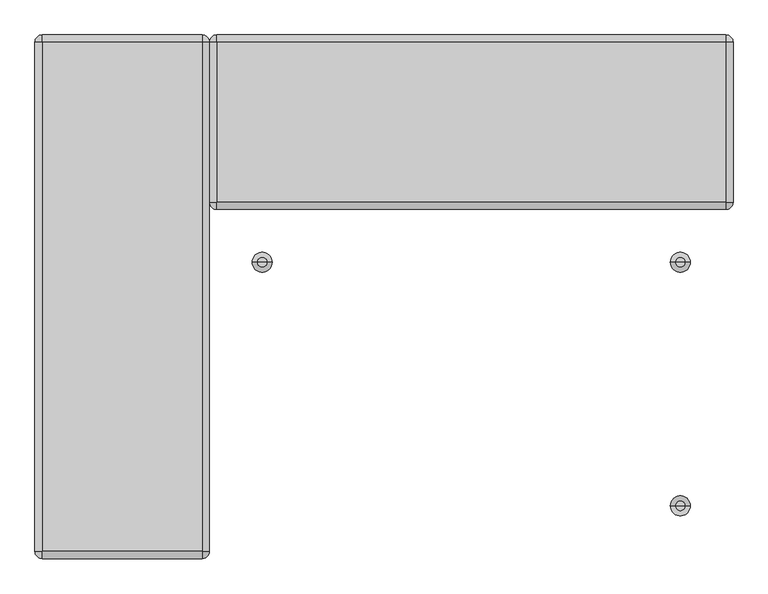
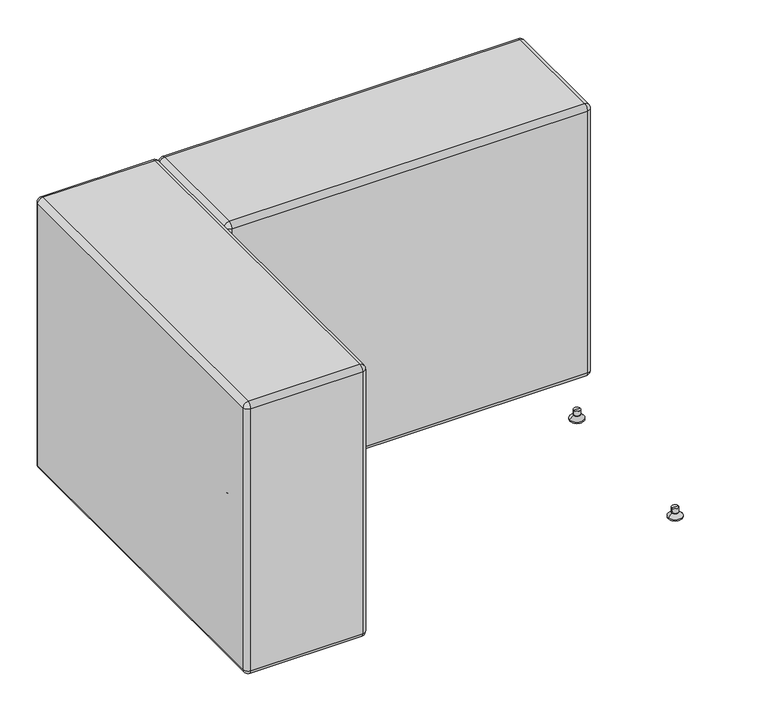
"""IFC4 building model written with IfcOpenShell, lengths in millimetres: furniture geometry, KFI Studios - Conversa : 24”x36” Seat - Right Corner."""

from ifc_helpers import new_model, si_unit, point, frame, origin, place, context, project, spatial, polyline, circle_curve, ellipse_curve, trimmed, source, transform, mapped, element, save
from ifc_brep_helpers import plane_surface, cylinder_surface, revolved_surface, advanced_brep


def furniture_e837e3ce(model_context):
    return source(origin(), model_context, "Body", "AdvancedBrep", [
        advanced_brep(
        [(-661.6604105, 517.525, 25.4), (-669.925, 517.525, 25.4), (-678.1895895, 517.525, 25.4), (-661.6604105, 517.525, 14.2843611), (-678.1895895, 517.525, 14.2843611), (-663.2623646, 517.525, 14.2843611), (-676.5876354, 517.525, 14.2843611), (-663.2623646, 517.525, 12.7064551), (-676.5876354, 517.525, 12.7064551), (-661.6609329, 517.525, 12.7064551), (-678.1890671, 517.525, 12.7064551), (-652.4758785, 517.525, 3.1950529), (-687.3741215, 517.525, 3.1950529), (-652.4758785, 517.525, 0.0), (-687.3741215, 517.525, 0.0), (-669.925, 517.525, 0.0)],
        [
            (0, 1),
            (1, 2),
            (2, 0, circle_curve(frame((-669.925, 517.525, 25.4), z_axis=(0.0, 0.0, 1.0), x_axis=(-1.0, 0.0, 0.0)), 8.2645895)),
            (0, 2, circle_curve(frame((-669.925, 517.525, 25.4), z_axis=(0.0, 0.0, 1.0), x_axis=(-1.0, 0.0, 0.0)), 8.2645895)),
            (3, 0),
            (2, 4),
            (4, 3, circle_curve(frame((-669.925, 517.525, 14.2843611), z_axis=(0.0, 0.0, 1.0), x_axis=(-1.0, 0.0, 0.0)), 8.2645895)),
            (3, 4, circle_curve(frame((-669.925, 517.525, 14.2843611), z_axis=(0.0, 0.0, 1.0), x_axis=(-1.0, 0.0, 0.0)), 8.2645895)),
            (5, 3),
            (4, 6),
            (6, 5, circle_curve(frame((-669.925, 517.525, 14.2843611), z_axis=(0.0, 0.0, 1.0), x_axis=(-1.0, 0.0, 0.0)), 6.6626354)),
            (5, 6, circle_curve(frame((-669.925, 517.525, 14.2843611), z_axis=(0.0, 0.0, 1.0), x_axis=(-1.0, 0.0, 0.0)), 6.6626354)),
            (7, 5),
            (6, 8),
            (8, 7, circle_curve(frame((-669.925, 517.525, 12.7064551), z_axis=(0.0, 0.0, 1.0), x_axis=(-1.0, 0.0, 0.0)), 6.6626354)),
            (7, 8, circle_curve(frame((-669.925, 517.525, 12.7064551), z_axis=(0.0, 0.0, 1.0), x_axis=(-1.0, 0.0, 0.0)), 6.6626354)),
            (9, 7),
            (8, 10),
            (10, 9, circle_curve(frame((-669.925, 517.525, 12.7064551), z_axis=(0.0, 0.0, 1.0), x_axis=(-1.0, 0.0, 0.0)), 8.2640671)),
            (9, 10, circle_curve(frame((-669.925, 517.525, 12.7064551), z_axis=(0.0, 0.0, 1.0), x_axis=(-1.0, 0.0, 0.0)), 8.2640671)),
            (11, 9),
            (10, 12),
            (12, 11, circle_curve(frame((-669.925, 517.525, 3.1950529), z_axis=(0.0, 0.0, 1.0), x_axis=(-1.0, 0.0, 0.0)), 17.4491215)),
            (11, 12, circle_curve(frame((-669.925, 517.525, 3.1950529), z_axis=(0.0, 0.0, 1.0), x_axis=(-1.0, 0.0, 0.0)), 17.4491215)),
            (13, 11),
            (12, 14),
            (14, 13, circle_curve(frame((-669.925, 517.525, 0.0), z_axis=(0.0, 0.0, 1.0), x_axis=(-1.0, 0.0, 0.0)), 17.4491215)),
            (13, 14, circle_curve(frame((-669.925, 517.525, 0.0), z_axis=(0.0, 0.0, 1.0), x_axis=(-1.0, 0.0, 0.0)), 17.4491215)),
            (15, 13),
            (14, 15),
        ],
        [
            plane_surface(frame((-669.925, 517.525, 25.4), z_axis=(0.0, 0.0, 1.0), x_axis=(-1.0, 0.0, 0.0))),
            cylinder_surface(frame((-669.925, 517.525, 33.820929), z_axis=(0.0, 0.0, -1.0), x_axis=(-1.0, 0.0, 0.0)), 8.2645895),
            plane_surface(frame((-669.925, 517.525, 14.2843611), z_axis=(0.0, 0.0, -1.0), x_axis=(-1.0, 0.0, 0.0))),
            cylinder_surface(frame((-669.925, 517.525, 33.820929), z_axis=(0.0, 0.0, -1.0), x_axis=(-1.0, 0.0, 0.0)), 6.6626354),
            plane_surface(frame((-669.925, 517.525, 12.7064551), z_axis=(0.0, 0.0, 1.0), x_axis=(-1.0, 0.0, 0.0))),
            revolved_surface(polyline([(-678.1890671, 517.525, 12.7064551), (-687.3741215, 517.525, 3.1950529)]), (-669.925, 517.525, 33.820929), (0.0, 0.0, -1.0)),
            cylinder_surface(frame((-669.925, 517.525, 33.820929), z_axis=(0.0, 0.0, -1.0), x_axis=(-1.0, 0.0, 0.0)), 17.4491215),
            plane_surface(frame((-669.925, 517.525, 0.0), z_axis=(0.0, 0.0, -1.0), x_axis=(-1.0, 0.0, 0.0))),
        ],
        [
            (0, [[1, 2, 3]]),
            (0, [[-2, -1, 4]]),
            (1, [[5, -3, 6, 7]]),
            (1, [[-6, -4, -5, 8]]),
            (2, [[9, -7, 10, 11]]),
            (2, [[-10, -8, -9, 12]]),
            (3, [[13, -11, 14, 15]]),
            (3, [[-14, -12, -13, 16]]),
            (4, [[17, -15, 18, 19]]),
            (4, [[-18, -16, -17, 20]]),
            (5, [[21, -19, 22, 23]]),
            (5, [[-22, -20, -21, 24]]),
            (6, [[25, -23, 26, 27]]),
            (6, [[-26, -24, -25, 28]]),
            (7, [[29, -27, 30]]),
            (7, [[-30, -28, -29]]),
        ],
    ),
        advanced_brep(
        [(-661.6604105, -212.725, 25.4), (-678.1895895, -212.725, 25.4), (-669.925, -212.725, 25.4), (-661.6604105, -212.725, 14.2843611), (-678.1895895, -212.725, 14.2843611), (-663.2623646, -212.725, 14.2843611), (-676.5876354, -212.725, 14.2843611), (-663.2623646, -212.725, 12.7064551), (-676.5876354, -212.725, 12.7064551), (-661.6609329, -212.725, 12.7064551), (-678.1890671, -212.725, 12.7064551), (-652.4758785, -212.725, 3.1950529), (-687.3741215, -212.725, 3.1950529), (-652.4758785, -212.725, 0.0), (-687.3741215, -212.725, 0.0), (-669.925, -212.725, 0.0)],
        [
            (0, 1, circle_curve(frame((-669.925, -212.725, 25.4), z_axis=(0.0, 0.0, 1.0), x_axis=(-1.0, 0.0, 0.0)), 8.2645895)),
            (1, 2),
            (2, 0),
            (1, 0, circle_curve(frame((-669.925, -212.725, 25.4), z_axis=(0.0, 0.0, 1.0), x_axis=(-1.0, 0.0, 0.0)), 8.2645895)),
            (3, 4, circle_curve(frame((-669.925, -212.725, 14.2843611), z_axis=(0.0, 0.0, 1.0), x_axis=(-1.0, 0.0, 0.0)), 8.2645895)),
            (4, 1),
            (0, 3),
            (4, 3, circle_curve(frame((-669.925, -212.725, 14.2843611), z_axis=(0.0, 0.0, 1.0), x_axis=(-1.0, 0.0, 0.0)), 8.2645895)),
            (5, 6, circle_curve(frame((-669.925, -212.725, 14.2843611), z_axis=(0.0, 0.0, 1.0), x_axis=(-1.0, 0.0, 0.0)), 6.6626354)),
            (6, 4),
            (3, 5),
            (6, 5, circle_curve(frame((-669.925, -212.725, 14.2843611), z_axis=(0.0, 0.0, 1.0), x_axis=(-1.0, 0.0, 0.0)), 6.6626354)),
            (7, 8, circle_curve(frame((-669.925, -212.725, 12.7064551), z_axis=(0.0, 0.0, 1.0), x_axis=(-1.0, 0.0, 0.0)), 6.6626354)),
            (8, 6),
            (5, 7),
            (8, 7, circle_curve(frame((-669.925, -212.725, 12.7064551), z_axis=(0.0, 0.0, 1.0), x_axis=(-1.0, 0.0, 0.0)), 6.6626354)),
            (9, 10, circle_curve(frame((-669.925, -212.725, 12.7064551), z_axis=(0.0, 0.0, 1.0), x_axis=(-1.0, 0.0, 0.0)), 8.2640671)),
            (10, 8),
            (7, 9),
            (10, 9, circle_curve(frame((-669.925, -212.725, 12.7064551), z_axis=(0.0, 0.0, 1.0), x_axis=(-1.0, 0.0, 0.0)), 8.2640671)),
            (11, 12, circle_curve(frame((-669.925, -212.725, 3.1950529), z_axis=(0.0, 0.0, 1.0), x_axis=(-1.0, 0.0, 0.0)), 17.4491215)),
            (12, 10),
            (9, 11),
            (12, 11, circle_curve(frame((-669.925, -212.725, 3.1950529), z_axis=(0.0, 0.0, 1.0), x_axis=(-1.0, 0.0, 0.0)), 17.4491215)),
            (13, 14, circle_curve(frame((-669.925, -212.725, 0.0), z_axis=(0.0, 0.0, 1.0), x_axis=(-1.0, 0.0, 0.0)), 17.4491215)),
            (14, 12),
            (11, 13),
            (14, 13, circle_curve(frame((-669.925, -212.725, 0.0), z_axis=(0.0, 0.0, 1.0), x_axis=(-1.0, 0.0, 0.0)), 17.4491215)),
            (15, 14),
            (13, 15),
        ],
        [
            plane_surface(frame((-669.925, -212.725, 25.4), z_axis=(0.0, 0.0, 1.0), x_axis=(-1.0, 0.0, 0.0))),
            cylinder_surface(frame((-669.925, -212.725, 33.820929), z_axis=(0.0, 0.0, -1.0), x_axis=(-1.0, 0.0, 0.0)), 8.2645895),
            plane_surface(frame((-669.925, -212.725, 14.2843611), z_axis=(0.0, 0.0, -1.0), x_axis=(-1.0, 0.0, 0.0))),
            cylinder_surface(frame((-669.925, -212.725, 33.820929), z_axis=(0.0, 0.0, -1.0), x_axis=(-1.0, 0.0, 0.0)), 6.6626354),
            plane_surface(frame((-669.925, -212.725, 12.7064551), z_axis=(0.0, 0.0, 1.0), x_axis=(-1.0, 0.0, 0.0))),
            revolved_surface(polyline([(-678.1890671, -212.725, 12.7064551), (-687.3741215, -212.725, 3.1950529)]), (-669.925, -212.725, 33.820929), (0.0, 0.0, -1.0)),
            cylinder_surface(frame((-669.925, -212.725, 33.820929), z_axis=(0.0, 0.0, -1.0), x_axis=(-1.0, 0.0, 0.0)), 17.4491215),
            plane_surface(frame((-669.925, -212.725, 0.0), z_axis=(0.0, 0.0, -1.0), x_axis=(-1.0, 0.0, 0.0))),
        ],
        [
            (0, [[1, 2, 3]]),
            (0, [[4, -3, -2]]),
            (1, [[5, 6, -1, 7]]),
            (1, [[8, -7, -4, -6]]),
            (2, [[9, 10, -5, 11]]),
            (2, [[12, -11, -8, -10]]),
            (3, [[13, 14, -9, 15]]),
            (3, [[16, -15, -12, -14]]),
            (4, [[17, 18, -13, 19]]),
            (4, [[20, -19, -16, -18]]),
            (5, [[21, 22, -17, 23]]),
            (5, [[24, -23, -20, -22]]),
            (6, [[25, 26, -21, 27]]),
            (6, [[28, -27, -24, -26]]),
            (7, [[29, -25, 30]]),
            (7, [[-30, -28, -29]]),
        ],
    ),
        advanced_brep(
        [(-762.0, 596.9, 730.25), (-762.0, -292.1, 730.25), (-749.3, -292.1, 742.95), (-749.3, 596.9, 742.95), (-762.0, 596.9, 38.1), (-762.0, -292.1, 38.1), (-749.3, 596.9, 25.4), (-749.3, -292.1, 25.4), (-749.3, -304.8, 730.25), (-469.9, -304.8, 730.25), (-469.9, -292.1, 742.95), (-749.3, -304.8, 38.1), (-469.9, -304.8, 38.1), (-469.9, -292.1, 25.4), (-469.9, 596.9, 742.95), (-469.9, 596.9, 25.4), (-469.9, 609.6, 730.25), (-749.3, 609.6, 730.25), (-469.9, 609.6, 38.1), (-749.3, 609.6, 38.1), (-457.2, -292.1, 730.25), (-457.2, 596.9, 730.25), (-457.2, -292.1, 38.1), (-457.2, 596.9, 38.1)],
        [
            (0, 1),
            (1, 2, circle_curve(frame((-749.3, -292.1, 730.25), z_axis=(0.0, 1.0, 0.0), x_axis=(-1.0, 0.0, 0.0)), 12.7)),
            (2, 3),
            (3, 0, circle_curve(frame((-749.3, 596.9, 730.25), z_axis=(0.0, -1.0, 0.0), x_axis=(-1.0, 0.0, 0.0)), 12.7)),
            (0, 4),
            (4, 5),
            (5, 1),
            (4, 6, circle_curve(frame((-749.3, 596.9, 38.1), z_axis=(0.0, -1.0, 0.0), x_axis=(-1.0, 0.0, 0.0)), 12.7)),
            (6, 7),
            (7, 5, circle_curve(frame((-749.3, -292.1, 38.1), z_axis=(0.0, 1.0, 0.0), x_axis=(-1.0, 0.0, 0.0)), 12.7)),
            (8, 9),
            (9, 10, circle_curve(frame((-469.9, -292.1, 730.25), z_axis=(-1.0, 0.0, 0.0), x_axis=(0.0, 1.0, 0.0)), 12.7)),
            (10, 2),
            (2, 8, circle_curve(frame((-749.3, -292.1, 730.25), z_axis=(1.0, 0.0, 0.0), x_axis=(0.0, 1.0, 0.0)), 12.7)),
            (8, 11),
            (11, 12),
            (12, 9),
            (11, 7, circle_curve(frame((-749.3, -292.1, 38.1), z_axis=(1.0, 0.0, 0.0), x_axis=(0.0, 1.0, 0.0)), 12.7)),
            (7, 13),
            (13, 12, circle_curve(frame((-469.9, -292.1, 38.1), z_axis=(-1.0, 0.0, 0.0), x_axis=(0.0, 1.0, 0.0)), 12.7)),
            (10, 14),
            (14, 3),
            (6, 15),
            (15, 13),
            (16, 17),
            (17, 3, circle_curve(frame((-749.3, 596.9, 730.25), z_axis=(1.0, 0.0, 0.0), x_axis=(0.0, 1.0, 0.0)), 12.7)),
            (14, 16, circle_curve(frame((-469.9, 596.9, 730.25), z_axis=(-1.0, 0.0, 0.0), x_axis=(0.0, 1.0, 0.0)), 12.7)),
            (16, 18),
            (18, 19),
            (19, 17),
            (18, 15, circle_curve(frame((-469.9, 596.9, 38.1), z_axis=(-1.0, 0.0, 0.0), x_axis=(0.0, 1.0, 0.0)), 12.7)),
            (6, 19, circle_curve(frame((-749.3, 596.9, 38.1), z_axis=(1.0, 0.0, 0.0), x_axis=(0.0, 1.0, 0.0)), 12.7)),
            (20, 21),
            (21, 14, circle_curve(frame((-469.9, 596.9, 730.25), z_axis=(0.0, -1.0, 0.0), x_axis=(-1.0, 0.0, 0.0)), 12.7)),
            (10, 20, circle_curve(frame((-469.9, -292.1, 730.25), z_axis=(0.0, 1.0, 0.0), x_axis=(-1.0, 0.0, 0.0)), 12.7)),
            (20, 22),
            (22, 23),
            (23, 21),
            (22, 13, circle_curve(frame((-469.9, -292.1, 38.1), z_axis=(0.0, 1.0, 0.0), x_axis=(-1.0, 0.0, 0.0)), 12.7)),
            (15, 23, circle_curve(frame((-469.9, 596.9, 38.1), z_axis=(0.0, -1.0, 0.0), x_axis=(-1.0, 0.0, 0.0)), 12.7)),
            (19, 4, circle_curve(frame((-749.3, 596.9, 38.1), z_axis=(0.0, 0.0, 1.0), x_axis=(-1.0, 0.0, 0.0)), 12.7)),
            (0, 17, circle_curve(frame((-749.3, 596.9, 730.25), z_axis=(0.0, 0.0, -1.0), x_axis=(-1.0, 0.0, 0.0)), 12.7)),
            (8, 1, circle_curve(frame((-749.3, -292.1, 730.25), z_axis=(0.0, 0.0, -1.0), x_axis=(-1.0, 0.0, 0.0)), 12.7)),
            (5, 11, circle_curve(frame((-749.3, -292.1, 38.1), z_axis=(0.0, 0.0, 1.0), x_axis=(-1.0, 0.0, 0.0)), 12.7)),
            (12, 22, circle_curve(frame((-469.9, -292.1, 38.1), z_axis=(0.0, 0.0, 1.0), x_axis=(1.0, 0.0, 0.0)), 12.7)),
            (20, 9, circle_curve(frame((-469.9, -292.1, 730.25), z_axis=(0.0, 0.0, -1.0), x_axis=(1.0, 0.0, 0.0)), 12.7)),
            (16, 21, circle_curve(frame((-469.9, 596.9, 730.25), z_axis=(0.0, 0.0, -1.0), x_axis=(1.0, 0.0, 0.0)), 12.7)),
            (23, 18, circle_curve(frame((-469.9, 596.9, 38.1), z_axis=(0.0, 0.0, 1.0), x_axis=(1.0, 0.0, 0.0)), 12.7)),
        ],
        [
            cylinder_surface(frame((-749.3, -292.1, 730.25), z_axis=(0.0, -1.0, 0.0), x_axis=(-1.0, 0.0, 0.0)), 12.7),
            plane_surface(frame((-762.0, -292.1, 730.25), z_axis=(-1.0, 0.0, 0.0), x_axis=(0.0, 1.0, 0.0))),
            cylinder_surface(frame((-749.3, -292.1, 38.1), z_axis=(0.0, -1.0, 0.0), x_axis=(-1.0, 0.0, 0.0)), 12.7),
            cylinder_surface(frame((-749.3, -292.1, 730.25), z_axis=(-1.0, 0.0, 0.0), x_axis=(0.0, 1.0, 0.0)), 12.7),
            plane_surface(frame((-749.3, -304.8, 38.1), z_axis=(0.0, -1.0, 0.0), x_axis=(1.0, 0.0, 0.0))),
            cylinder_surface(frame((-749.3, -292.1, 38.1), z_axis=(-1.0, 0.0, 0.0), x_axis=(0.0, 1.0, 0.0)), 12.7),
            plane_surface(frame((-749.3, 596.9, 742.95), z_axis=(0.0, 0.0, 1.0), x_axis=(-1.0, 0.0, 0.0))),
            plane_surface(frame((-749.3, 596.9, 25.4), z_axis=(0.0, 0.0, -1.0), x_axis=(1.0, 0.0, 0.0))),
            cylinder_surface(frame((-749.3, 596.9, 730.25), z_axis=(-1.0, 0.0, 0.0), x_axis=(0.0, 1.0, 0.0)), 12.7),
            plane_surface(frame((-749.3, 609.6, 730.25), z_axis=(0.0, 1.0, 0.0), x_axis=(1.0, 0.0, 0.0))),
            cylinder_surface(frame((-749.3, 596.9, 38.1), z_axis=(-1.0, 0.0, 0.0), x_axis=(0.0, 1.0, 0.0)), 12.7),
            cylinder_surface(frame((-469.9, -292.1, 730.25), z_axis=(0.0, -1.0, 0.0), x_axis=(-1.0, 0.0, 0.0)), 12.7),
            plane_surface(frame((-457.2, -292.1, 38.1), z_axis=(1.0, 0.0, 0.0), x_axis=(0.0, 1.0, 0.0))),
            cylinder_surface(frame((-469.9, -292.1, 38.1), z_axis=(0.0, -1.0, 0.0), x_axis=(-1.0, 0.0, 0.0)), 12.7),
            cylinder_surface(frame((-749.3, 596.9, 742.95), z_axis=(0.0, 0.0, 1.0), x_axis=(-1.0, 0.0, 0.0)), 12.7),
            revolved_surface(trimmed(ellipse_curve(frame((-749.3, 596.9, 38.1), z_axis=(0.0, 1.0, 0.0), x_axis=(0.0, 0.0, 1.0)), 12.7, 12.7), [point((-749.3, 596.9, 25.4))], [point((-762.0, 596.9, 38.1))], True, "CARTESIAN"), (-749.3, 596.9, 742.95), (0.0, 0.0, 1.0)),
            revolved_surface(trimmed(ellipse_curve(frame((-749.3, 596.9, 730.25), z_axis=(0.0, 1.0, 0.0), x_axis=(0.0, 0.0, 1.0)), 12.7, 12.7), [point((-762.0, 596.9, 730.25))], [point((-749.3, 596.9, 742.95))], True, "CARTESIAN"), (-749.3, 596.9, 742.95), (0.0, 0.0, 1.0)),
            cylinder_surface(frame((-749.3, -292.1, 592.6689642), z_axis=(0.0, 0.0, -1.0), x_axis=(-1.0, 0.0, 0.0)), 12.7),
            revolved_surface(trimmed(ellipse_curve(frame((-749.3, -292.1, 730.25), z_axis=(0.0, -1.0, 0.0), x_axis=(1.0, 0.0, 0.0)), 12.7, 12.7), [point((-749.3, -292.1, 742.95))], [point((-762.0, -292.1, 730.25))], True, "CARTESIAN"), (-749.3, -292.1, 592.6689642), (0.0, 0.0, -1.0)),
            revolved_surface(trimmed(ellipse_curve(frame((-749.3, -292.1, 38.1), z_axis=(0.0, -1.0, 0.0), x_axis=(1.0, 0.0, 0.0)), 12.7, 12.7), [point((-762.0, -292.1, 38.1))], [point((-749.3, -292.1, 25.4))], True, "CARTESIAN"), (-749.3, -292.1, 592.6689642), (0.0, 0.0, -1.0)),
            cylinder_surface(frame((-469.9, -292.1, 742.95), z_axis=(0.0, 0.0, 1.0), x_axis=(1.0, 0.0, 0.0)), 12.7),
            revolved_surface(trimmed(ellipse_curve(frame((-469.9, -292.1, 38.1), z_axis=(0.0, -1.0, 0.0), x_axis=(1.0, 0.0, 0.0)), 12.7, 12.7), [point((-469.9, -292.1, 25.4))], [point((-457.2, -292.1, 38.1))], True, "CARTESIAN"), (-469.9, -292.1, 742.95), (0.0, 0.0, 1.0)),
            revolved_surface(trimmed(ellipse_curve(frame((-469.9, -292.1, 730.25), z_axis=(0.0, -1.0, 0.0), x_axis=(1.0, 0.0, 0.0)), 12.7, 12.7), [point((-457.2, -292.1, 730.25))], [point((-469.9, -292.1, 742.95))], True, "CARTESIAN"), (-469.9, -292.1, 742.95), (0.0, 0.0, 1.0)),
            cylinder_surface(frame((-469.9, 596.9, 592.6689642), z_axis=(0.0, 0.0, -1.0), x_axis=(1.0, 0.0, 0.0)), 12.7),
            revolved_surface(trimmed(ellipse_curve(frame((-469.9, 596.9, 730.25), z_axis=(0.0, 1.0, 0.0), x_axis=(0.0, 0.0, 1.0)), 12.7, 12.7), [point((-469.9, 596.9, 742.95))], [point((-457.2, 596.9, 730.25))], True, "CARTESIAN"), (-469.9, 596.9, 592.6689642), (0.0, 0.0, -1.0)),
            revolved_surface(trimmed(ellipse_curve(frame((-469.9, 596.9, 38.1), z_axis=(0.0, 1.0, 0.0), x_axis=(0.0, 0.0, 1.0)), 12.7, 12.7), [point((-457.2, 596.9, 38.1))], [point((-469.9, 596.9, 25.4))], True, "CARTESIAN"), (-469.9, 596.9, 592.6689642), (0.0, 0.0, -1.0)),
        ],
        [
            (0, [[1, 2, 3, 4]]),
            (1, [[-1, 5, 6, 7]]),
            (2, [[-6, 8, 9, 10]]),
            (3, [[11, 12, 13, 14]]),
            (4, [[-11, 15, 16, 17]]),
            (5, [[-16, 18, 19, 20]]),
            (6, [[-3, -13, 21, 22]]),
            (7, [[-9, 23, 24, -19]]),
            (8, [[25, 26, -22, 27]]),
            (9, [[-25, 28, 29, 30]]),
            (10, [[-29, 31, -23, 32]]),
            (11, [[33, 34, -21, 35]]),
            (12, [[-33, 36, 37, 38]]),
            (13, [[-37, 39, -24, 40]]),
            (14, [[41, -5, 42, -30]]),
            (15, [[-41, -32, -8]]),
            (16, [[-42, -4, -26]]),
            (17, [[43, -7, 44, -15]]),
            (18, [[-43, -14, -2]]),
            (19, [[-44, -10, -18]]),
            (20, [[45, -36, 46, -17]]),
            (21, [[-45, -20, -39]]),
            (22, [[-46, -35, -12]]),
            (23, [[47, -38, 48, -28]]),
            (24, [[-47, -27, -34]]),
            (25, [[-48, -40, -31]]),
        ],
    ),
        advanced_brep(
        [(373.3895895, 517.525, 25.4), (365.125, 517.525, 25.4), (356.8604105, 517.525, 25.4), (373.3895895, 517.525, 14.2843611), (356.8604105, 517.525, 14.2843611), (371.7876354, 517.525, 14.2843611), (358.4623646, 517.525, 14.2843611), (371.7876354, 517.525, 12.7064551), (358.4623646, 517.525, 12.7064551), (373.3890671, 517.525, 12.7064551), (356.8609329, 517.525, 12.7064551), (382.5741215, 517.525, 3.1950529), (347.6758785, 517.525, 3.1950529), (382.5741215, 517.525, 0.0), (347.6758785, 517.525, 0.0), (365.125, 517.525, 0.0)],
        [
            (0, 1),
            (1, 2),
            (2, 0, circle_curve(frame((365.125, 517.525, 25.4), z_axis=(0.0, 0.0, 1.0), x_axis=(-1.0, 0.0, 0.0)), 8.2645895)),
            (0, 2, circle_curve(frame((365.125, 517.525, 25.4), z_axis=(0.0, 0.0, 1.0), x_axis=(-1.0, 0.0, 0.0)), 8.2645895)),
            (3, 0),
            (2, 4),
            (4, 3, circle_curve(frame((365.125, 517.525, 14.2843611), z_axis=(0.0, 0.0, 1.0), x_axis=(-1.0, 0.0, 0.0)), 8.2645895)),
            (3, 4, circle_curve(frame((365.125, 517.525, 14.2843611), z_axis=(0.0, 0.0, 1.0), x_axis=(-1.0, 0.0, 0.0)), 8.2645895)),
            (5, 3),
            (4, 6),
            (6, 5, circle_curve(frame((365.125, 517.525, 14.2843611), z_axis=(0.0, 0.0, 1.0), x_axis=(-1.0, 0.0, 0.0)), 6.6626354)),
            (5, 6, circle_curve(frame((365.125, 517.525, 14.2843611), z_axis=(0.0, 0.0, 1.0), x_axis=(-1.0, 0.0, 0.0)), 6.6626354)),
            (7, 5),
            (6, 8),
            (8, 7, circle_curve(frame((365.125, 517.525, 12.7064551), z_axis=(0.0, 0.0, 1.0), x_axis=(-1.0, 0.0, 0.0)), 6.6626354)),
            (7, 8, circle_curve(frame((365.125, 517.525, 12.7064551), z_axis=(0.0, 0.0, 1.0), x_axis=(-1.0, 0.0, 0.0)), 6.6626354)),
            (9, 7),
            (8, 10),
            (10, 9, circle_curve(frame((365.125, 517.525, 12.7064551), z_axis=(0.0, 0.0, 1.0), x_axis=(-1.0, 0.0, 0.0)), 8.2640671)),
            (9, 10, circle_curve(frame((365.125, 517.525, 12.7064551), z_axis=(0.0, 0.0, 1.0), x_axis=(-1.0, 0.0, 0.0)), 8.2640671)),
            (11, 9),
            (10, 12),
            (12, 11, circle_curve(frame((365.125, 517.525, 3.1950529), z_axis=(0.0, 0.0, 1.0), x_axis=(-1.0, 0.0, 0.0)), 17.4491215)),
            (11, 12, circle_curve(frame((365.125, 517.525, 3.1950529), z_axis=(0.0, 0.0, 1.0), x_axis=(-1.0, 0.0, 0.0)), 17.4491215)),
            (13, 11),
            (12, 14),
            (14, 13, circle_curve(frame((365.125, 517.525, 0.0), z_axis=(0.0, 0.0, 1.0), x_axis=(-1.0, 0.0, 0.0)), 17.4491215)),
            (13, 14, circle_curve(frame((365.125, 517.525, 0.0), z_axis=(0.0, 0.0, 1.0), x_axis=(-1.0, 0.0, 0.0)), 17.4491215)),
            (15, 13),
            (14, 15),
        ],
        [
            plane_surface(frame((365.125, 517.525, 25.4), z_axis=(0.0, 0.0, 1.0), x_axis=(-1.0, 0.0, 0.0))),
            cylinder_surface(frame((365.125, 517.525, 33.820929), z_axis=(0.0, 0.0, -1.0), x_axis=(-1.0, 0.0, 0.0)), 8.2645895),
            plane_surface(frame((365.125, 517.525, 14.2843611), z_axis=(0.0, 0.0, -1.0), x_axis=(-1.0, 0.0, 0.0))),
            cylinder_surface(frame((365.125, 517.525, 33.820929), z_axis=(0.0, 0.0, -1.0), x_axis=(-1.0, 0.0, 0.0)), 6.6626354),
            plane_surface(frame((365.125, 517.525, 12.7064551), z_axis=(0.0, 0.0, 1.0), x_axis=(-1.0, 0.0, 0.0))),
            revolved_surface(polyline([(356.8609329, 517.525, 12.7064551), (347.6758785, 517.525, 3.1950529)]), (365.125, 517.525, 33.820929), (0.0, 0.0, -1.0)),
            cylinder_surface(frame((365.125, 517.525, 33.820929), z_axis=(0.0, 0.0, -1.0), x_axis=(-1.0, 0.0, 0.0)), 17.4491215),
            plane_surface(frame((365.125, 517.525, 0.0), z_axis=(0.0, 0.0, -1.0), x_axis=(-1.0, 0.0, 0.0))),
        ],
        [
            (0, [[1, 2, 3]]),
            (0, [[-2, -1, 4]]),
            (1, [[5, -3, 6, 7]]),
            (1, [[-6, -4, -5, 8]]),
            (2, [[9, -7, 10, 11]]),
            (2, [[-10, -8, -9, 12]]),
            (3, [[13, -11, 14, 15]]),
            (3, [[-14, -12, -13, 16]]),
            (4, [[17, -15, 18, 19]]),
            (4, [[-18, -16, -17, 20]]),
            (5, [[21, -19, 22, 23]]),
            (5, [[-22, -20, -21, 24]]),
            (6, [[25, -23, 26, 27]]),
            (6, [[-26, -24, -25, 28]]),
            (7, [[29, -27, 30]]),
            (7, [[-30, -28, -29]]),
        ],
    ),
        advanced_brep(
        [(-356.8604105, 517.525, 25.4), (-365.125, 517.525, 25.4), (-373.3895895, 517.525, 25.4), (-356.8604105, 517.525, 14.2843611), (-373.3895895, 517.525, 14.2843611), (-358.4623646, 517.525, 14.2843611), (-371.7876354, 517.525, 14.2843611), (-358.4623646, 517.525, 12.7064551), (-371.7876354, 517.525, 12.7064551), (-356.8609329, 517.525, 12.7064551), (-373.3890671, 517.525, 12.7064551), (-347.6758785, 517.525, 3.1950529), (-382.5741215, 517.525, 3.1950529), (-347.6758785, 517.525, 0.0), (-382.5741215, 517.525, 0.0), (-365.125, 517.525, 0.0)],
        [
            (0, 1),
            (1, 2),
            (2, 0, circle_curve(frame((-365.125, 517.525, 25.4), z_axis=(0.0, 0.0, 1.0), x_axis=(-1.0, 0.0, 0.0)), 8.2645895)),
            (0, 2, circle_curve(frame((-365.125, 517.525, 25.4), z_axis=(0.0, 0.0, 1.0), x_axis=(-1.0, 0.0, 0.0)), 8.2645895)),
            (3, 0),
            (2, 4),
            (4, 3, circle_curve(frame((-365.125, 517.525, 14.2843611), z_axis=(0.0, 0.0, 1.0), x_axis=(-1.0, 0.0, 0.0)), 8.2645895)),
            (3, 4, circle_curve(frame((-365.125, 517.525, 14.2843611), z_axis=(0.0, 0.0, 1.0), x_axis=(-1.0, 0.0, 0.0)), 8.2645895)),
            (5, 3),
            (4, 6),
            (6, 5, circle_curve(frame((-365.125, 517.525, 14.2843611), z_axis=(0.0, 0.0, 1.0), x_axis=(-1.0, 0.0, 0.0)), 6.6626354)),
            (5, 6, circle_curve(frame((-365.125, 517.525, 14.2843611), z_axis=(0.0, 0.0, 1.0), x_axis=(-1.0, 0.0, 0.0)), 6.6626354)),
            (7, 5),
            (6, 8),
            (8, 7, circle_curve(frame((-365.125, 517.525, 12.7064551), z_axis=(0.0, 0.0, 1.0), x_axis=(-1.0, 0.0, 0.0)), 6.6626354)),
            (7, 8, circle_curve(frame((-365.125, 517.525, 12.7064551), z_axis=(0.0, 0.0, 1.0), x_axis=(-1.0, 0.0, 0.0)), 6.6626354)),
            (9, 7),
            (8, 10),
            (10, 9, circle_curve(frame((-365.125, 517.525, 12.7064551), z_axis=(0.0, 0.0, 1.0), x_axis=(-1.0, 0.0, 0.0)), 8.2640671)),
            (9, 10, circle_curve(frame((-365.125, 517.525, 12.7064551), z_axis=(0.0, 0.0, 1.0), x_axis=(-1.0, 0.0, 0.0)), 8.2640671)),
            (11, 9),
            (10, 12),
            (12, 11, circle_curve(frame((-365.125, 517.525, 3.1950529), z_axis=(0.0, 0.0, 1.0), x_axis=(-1.0, 0.0, 0.0)), 17.4491215)),
            (11, 12, circle_curve(frame((-365.125, 517.525, 3.1950529), z_axis=(0.0, 0.0, 1.0), x_axis=(-1.0, 0.0, 0.0)), 17.4491215)),
            (13, 11),
            (12, 14),
            (14, 13, circle_curve(frame((-365.125, 517.525, 0.0), z_axis=(0.0, 0.0, 1.0), x_axis=(-1.0, 0.0, 0.0)), 17.4491215)),
            (13, 14, circle_curve(frame((-365.125, 517.525, 0.0), z_axis=(0.0, 0.0, 1.0), x_axis=(-1.0, 0.0, 0.0)), 17.4491215)),
            (15, 13),
            (14, 15),
        ],
        [
            plane_surface(frame((-365.125, 517.525, 25.4), z_axis=(0.0, 0.0, 1.0), x_axis=(-1.0, 0.0, 0.0))),
            cylinder_surface(frame((-365.125, 517.525, 33.820929), z_axis=(0.0, 0.0, -1.0), x_axis=(-1.0, 0.0, 0.0)), 8.2645895),
            plane_surface(frame((-365.125, 517.525, 14.2843611), z_axis=(0.0, 0.0, -1.0), x_axis=(-1.0, 0.0, 0.0))),
            cylinder_surface(frame((-365.125, 517.525, 33.820929), z_axis=(0.0, 0.0, -1.0), x_axis=(-1.0, 0.0, 0.0)), 6.6626354),
            plane_surface(frame((-365.125, 517.525, 12.7064551), z_axis=(0.0, 0.0, 1.0), x_axis=(-1.0, 0.0, 0.0))),
            revolved_surface(polyline([(-373.3890671, 517.525, 12.7064551), (-382.5741215, 517.525, 3.1950529)]), (-365.125, 517.525, 33.820929), (0.0, 0.0, -1.0)),
            cylinder_surface(frame((-365.125, 517.525, 33.820929), z_axis=(0.0, 0.0, -1.0), x_axis=(-1.0, 0.0, 0.0)), 17.4491215),
            plane_surface(frame((-365.125, 517.525, 0.0), z_axis=(0.0, 0.0, -1.0), x_axis=(-1.0, 0.0, 0.0))),
        ],
        [
            (0, [[1, 2, 3]]),
            (0, [[-2, -1, 4]]),
            (1, [[5, -3, 6, 7]]),
            (1, [[-6, -4, -5, 8]]),
            (2, [[9, -7, 10, 11]]),
            (2, [[-10, -8, -9, 12]]),
            (3, [[13, -11, 14, 15]]),
            (3, [[-14, -12, -13, 16]]),
            (4, [[17, -15, 18, 19]]),
            (4, [[-18, -16, -17, 20]]),
            (5, [[21, -19, 22, 23]]),
            (5, [[-22, -20, -21, 24]]),
            (6, [[25, -23, 26, 27]]),
            (6, [[-26, -24, -25, 28]]),
            (7, [[29, -27, 30]]),
            (7, [[-30, -28, -29]]),
        ],
    ),
        advanced_brep(
        [(-457.2, 596.9, 730.25), (-457.2, 317.5, 730.25), (-444.5, 317.5, 742.95), (-444.5, 596.9, 742.95), (-457.2, 596.9, 38.1), (-457.2, 317.5, 38.1), (-444.5, 596.9, 25.4), (-444.5, 317.5, 25.4), (-444.5, 304.8, 730.25), (444.5, 304.8, 730.25), (444.5, 317.5, 742.95), (-444.5, 304.8, 38.1), (444.5, 304.8, 38.1), (444.5, 317.5, 25.4), (444.5, 596.9, 742.95), (444.5, 596.9, 25.4), (444.5, 609.6, 730.25), (-444.5, 609.6, 730.25), (444.5, 609.6, 38.1), (-444.5, 609.6, 38.1), (457.2, 317.5, 730.25), (457.2, 596.9, 730.25), (457.2, 317.5, 38.1), (457.2, 596.9, 38.1)],
        [
            (0, 1),
            (1, 2, circle_curve(frame((-444.5, 317.5, 730.25), z_axis=(0.0, 1.0, 0.0), x_axis=(-1.0, 0.0, 0.0)), 12.7)),
            (2, 3),
            (3, 0, circle_curve(frame((-444.5, 596.9, 730.25), z_axis=(0.0, -1.0, 0.0), x_axis=(-1.0, 0.0, 0.0)), 12.7)),
            (0, 4),
            (4, 5),
            (5, 1),
            (4, 6, circle_curve(frame((-444.5, 596.9, 38.1), z_axis=(0.0, -1.0, 0.0), x_axis=(-1.0, 0.0, 0.0)), 12.7)),
            (6, 7),
            (7, 5, circle_curve(frame((-444.5, 317.5, 38.1), z_axis=(0.0, 1.0, 0.0), x_axis=(-1.0, 0.0, 0.0)), 12.7)),
            (8, 9),
            (9, 10, circle_curve(frame((444.5, 317.5, 730.25), z_axis=(-1.0, 0.0, 0.0), x_axis=(0.0, 1.0, 0.0)), 12.7)),
            (10, 2),
            (2, 8, circle_curve(frame((-444.5, 317.5, 730.25), z_axis=(1.0, 0.0, 0.0), x_axis=(0.0, 1.0, 0.0)), 12.7)),
            (8, 11),
            (11, 12),
            (12, 9),
            (11, 7, circle_curve(frame((-444.5, 317.5, 38.1), z_axis=(1.0, 0.0, 0.0), x_axis=(0.0, 1.0, 0.0)), 12.7)),
            (7, 13),
            (13, 12, circle_curve(frame((444.5, 317.5, 38.1), z_axis=(-1.0, 0.0, 0.0), x_axis=(0.0, 1.0, 0.0)), 12.7)),
            (10, 14),
            (14, 3),
            (6, 15),
            (15, 13),
            (16, 17),
            (17, 3, circle_curve(frame((-444.5, 596.9, 730.25), z_axis=(1.0, 0.0, 0.0), x_axis=(0.0, 1.0, 0.0)), 12.7)),
            (14, 16, circle_curve(frame((444.5, 596.9, 730.25), z_axis=(-1.0, 0.0, 0.0), x_axis=(0.0, 1.0, 0.0)), 12.7)),
            (16, 18),
            (18, 19),
            (19, 17),
            (18, 15, circle_curve(frame((444.5, 596.9, 38.1), z_axis=(-1.0, 0.0, 0.0), x_axis=(0.0, 1.0, 0.0)), 12.7)),
            (6, 19, circle_curve(frame((-444.5, 596.9, 38.1), z_axis=(1.0, 0.0, 0.0), x_axis=(0.0, 1.0, 0.0)), 12.7)),
            (20, 21),
            (21, 14, circle_curve(frame((444.5, 596.9, 730.25), z_axis=(0.0, -1.0, 0.0), x_axis=(-1.0, 0.0, 0.0)), 12.7)),
            (10, 20, circle_curve(frame((444.5, 317.5, 730.25), z_axis=(0.0, 1.0, 0.0), x_axis=(-1.0, 0.0, 0.0)), 12.7)),
            (20, 22),
            (22, 23),
            (23, 21),
            (22, 13, circle_curve(frame((444.5, 317.5, 38.1), z_axis=(0.0, 1.0, 0.0), x_axis=(-1.0, 0.0, 0.0)), 12.7)),
            (15, 23, circle_curve(frame((444.5, 596.9, 38.1), z_axis=(0.0, -1.0, 0.0), x_axis=(-1.0, 0.0, 0.0)), 12.7)),
            (19, 4, circle_curve(frame((-444.5, 596.9, 38.1), z_axis=(0.0, 0.0, 1.0), x_axis=(-1.0, 0.0, 0.0)), 12.7)),
            (0, 17, circle_curve(frame((-444.5, 596.9, 730.25), z_axis=(0.0, 0.0, -1.0), x_axis=(-1.0, 0.0, 0.0)), 12.7)),
            (8, 1, circle_curve(frame((-444.5, 317.5, 730.25), z_axis=(0.0, 0.0, -1.0), x_axis=(-1.0, 0.0, 0.0)), 12.7)),
            (5, 11, circle_curve(frame((-444.5, 317.5, 38.1), z_axis=(0.0, 0.0, 1.0), x_axis=(-1.0, 0.0, 0.0)), 12.7)),
            (12, 22, circle_curve(frame((444.5, 317.5, 38.1), z_axis=(0.0, 0.0, 1.0), x_axis=(1.0, 0.0, 0.0)), 12.7)),
            (20, 9, circle_curve(frame((444.5, 317.5, 730.25), z_axis=(0.0, 0.0, -1.0), x_axis=(1.0, 0.0, 0.0)), 12.7)),
            (16, 21, circle_curve(frame((444.5, 596.9, 730.25), z_axis=(0.0, 0.0, -1.0), x_axis=(1.0, 0.0, 0.0)), 12.7)),
            (23, 18, circle_curve(frame((444.5, 596.9, 38.1), z_axis=(0.0, 0.0, 1.0), x_axis=(1.0, 0.0, 0.0)), 12.7)),
        ],
        [
            cylinder_surface(frame((-444.5, 317.5, 730.25), z_axis=(0.0, -1.0, 0.0), x_axis=(-1.0, 0.0, 0.0)), 12.7),
            plane_surface(frame((-457.2, 317.5, 730.25), z_axis=(-1.0, 0.0, 0.0), x_axis=(0.0, 1.0, 0.0))),
            cylinder_surface(frame((-444.5, 317.5, 38.1), z_axis=(0.0, -1.0, 0.0), x_axis=(-1.0, 0.0, 0.0)), 12.7),
            cylinder_surface(frame((-444.5, 317.5, 730.25), z_axis=(-1.0, 0.0, 0.0), x_axis=(0.0, 1.0, 0.0)), 12.7),
            plane_surface(frame((-444.5, 304.8, 38.1), z_axis=(0.0, -1.0, 0.0), x_axis=(1.0, 0.0, 0.0))),
            cylinder_surface(frame((-444.5, 317.5, 38.1), z_axis=(-1.0, 0.0, 0.0), x_axis=(0.0, 1.0, 0.0)), 12.7),
            plane_surface(frame((-444.5, 596.9, 742.95), z_axis=(0.0, 0.0, 1.0), x_axis=(-1.0, 0.0, 0.0))),
            plane_surface(frame((-444.5, 596.9, 25.4), z_axis=(0.0, 0.0, -1.0), x_axis=(1.0, 0.0, 0.0))),
            cylinder_surface(frame((-444.5, 596.9, 730.25), z_axis=(-1.0, 0.0, 0.0), x_axis=(0.0, 1.0, 0.0)), 12.7),
            plane_surface(frame((-444.5, 609.6, 730.25), z_axis=(0.0, 1.0, 0.0), x_axis=(1.0, 0.0, 0.0))),
            cylinder_surface(frame((-444.5, 596.9, 38.1), z_axis=(-1.0, 0.0, 0.0), x_axis=(0.0, 1.0, 0.0)), 12.7),
            cylinder_surface(frame((444.5, 317.5, 730.25), z_axis=(0.0, -1.0, 0.0), x_axis=(-1.0, 0.0, 0.0)), 12.7),
            plane_surface(frame((457.2, 317.5, 38.1), z_axis=(1.0, 0.0, 0.0), x_axis=(0.0, 1.0, 0.0))),
            cylinder_surface(frame((444.5, 317.5, 38.1), z_axis=(0.0, -1.0, 0.0), x_axis=(-1.0, 0.0, 0.0)), 12.7),
            cylinder_surface(frame((-444.5, 596.9, 742.95), z_axis=(0.0, 0.0, 1.0), x_axis=(-1.0, 0.0, 0.0)), 12.7),
            revolved_surface(trimmed(ellipse_curve(frame((-444.5, 596.9, 38.1), z_axis=(0.0, 1.0, 0.0), x_axis=(0.0, 0.0, 1.0)), 12.7, 12.7), [point((-444.5, 596.9, 25.4))], [point((-457.2, 596.9, 38.1))], True, "CARTESIAN"), (-444.5, 596.9, 742.95), (0.0, 0.0, 1.0)),
            revolved_surface(trimmed(ellipse_curve(frame((-444.5, 596.9, 730.25), z_axis=(0.0, 1.0, 0.0), x_axis=(0.0, 0.0, 1.0)), 12.7, 12.7), [point((-457.2, 596.9, 730.25))], [point((-444.5, 596.9, 742.95))], True, "CARTESIAN"), (-444.5, 596.9, 742.95), (0.0, 0.0, 1.0)),
            cylinder_surface(frame((-444.5, 317.5, 592.6689642), z_axis=(0.0, 0.0, -1.0), x_axis=(-1.0, 0.0, 0.0)), 12.7),
            revolved_surface(trimmed(ellipse_curve(frame((-444.5, 317.5, 730.25), z_axis=(0.0, -1.0, 0.0), x_axis=(1.0, 0.0, 0.0)), 12.7, 12.7), [point((-444.5, 317.5, 742.95))], [point((-457.2, 317.5, 730.25))], True, "CARTESIAN"), (-444.5, 317.5, 592.6689642), (0.0, 0.0, -1.0)),
            revolved_surface(trimmed(ellipse_curve(frame((-444.5, 317.5, 38.1), z_axis=(0.0, -1.0, 0.0), x_axis=(1.0, 0.0, 0.0)), 12.7, 12.7), [point((-457.2, 317.5, 38.1))], [point((-444.5, 317.5, 25.4))], True, "CARTESIAN"), (-444.5, 317.5, 592.6689642), (0.0, 0.0, -1.0)),
            cylinder_surface(frame((444.5, 317.5, 742.95), z_axis=(0.0, 0.0, 1.0), x_axis=(1.0, 0.0, 0.0)), 12.7),
            revolved_surface(trimmed(ellipse_curve(frame((444.5, 317.5, 38.1), z_axis=(0.0, -1.0, 0.0), x_axis=(1.0, 0.0, 0.0)), 12.7, 12.7), [point((444.5, 317.5, 25.4))], [point((457.2, 317.5, 38.1))], True, "CARTESIAN"), (444.5, 317.5, 742.95), (0.0, 0.0, 1.0)),
            revolved_surface(trimmed(ellipse_curve(frame((444.5, 317.5, 730.25), z_axis=(0.0, -1.0, 0.0), x_axis=(1.0, 0.0, 0.0)), 12.7, 12.7), [point((457.2, 317.5, 730.25))], [point((444.5, 317.5, 742.95))], True, "CARTESIAN"), (444.5, 317.5, 742.95), (0.0, 0.0, 1.0)),
            cylinder_surface(frame((444.5, 596.9, 592.6689642), z_axis=(0.0, 0.0, -1.0), x_axis=(1.0, 0.0, 0.0)), 12.7),
            revolved_surface(trimmed(ellipse_curve(frame((444.5, 596.9, 730.25), z_axis=(0.0, 1.0, 0.0), x_axis=(0.0, 0.0, 1.0)), 12.7, 12.7), [point((444.5, 596.9, 742.95))], [point((457.2, 596.9, 730.25))], True, "CARTESIAN"), (444.5, 596.9, 592.6689642), (0.0, 0.0, -1.0)),
            revolved_surface(trimmed(ellipse_curve(frame((444.5, 596.9, 38.1), z_axis=(0.0, 1.0, 0.0), x_axis=(0.0, 0.0, 1.0)), 12.7, 12.7), [point((457.2, 596.9, 38.1))], [point((444.5, 596.9, 25.4))], True, "CARTESIAN"), (444.5, 596.9, 592.6689642), (0.0, 0.0, -1.0)),
        ],
        [
            (0, [[1, 2, 3, 4]]),
            (1, [[-1, 5, 6, 7]]),
            (2, [[-6, 8, 9, 10]]),
            (3, [[11, 12, 13, 14]]),
            (4, [[-11, 15, 16, 17]]),
            (5, [[-16, 18, 19, 20]]),
            (6, [[-3, -13, 21, 22]]),
            (7, [[-9, 23, 24, -19]]),
            (8, [[25, 26, -22, 27]]),
            (9, [[-25, 28, 29, 30]]),
            (10, [[-29, 31, -23, 32]]),
            (11, [[33, 34, -21, 35]]),
            (12, [[-33, 36, 37, 38]]),
            (13, [[-37, 39, -24, 40]]),
            (14, [[41, -5, 42, -30]]),
            (15, [[-41, -32, -8]]),
            (16, [[-42, -4, -26]]),
            (17, [[43, -7, 44, -15]]),
            (18, [[-43, -14, -2]]),
            (19, [[-44, -10, -18]]),
            (20, [[45, -36, 46, -17]]),
            (21, [[-45, -20, -39]]),
            (22, [[-46, -35, -12]]),
            (23, [[47, -38, 48, -28]]),
            (24, [[-47, -27, -34]]),
            (25, [[-48, -40, -31]]),
        ],
    ),
        advanced_brep(
        [(373.3895895, 212.725, 25.4), (365.125, 212.725, 25.4), (356.8604105, 212.725, 25.4), (373.3895895, 212.725, 14.2843611), (356.8604105, 212.725, 14.2843611), (371.7876354, 212.725, 14.2843611), (358.4623646, 212.725, 14.2843611), (371.7876354, 212.725, 12.7064551), (358.4623646, 212.725, 12.7064551), (373.3890671, 212.725, 12.7064551), (356.8609329, 212.725, 12.7064551), (382.5741215, 212.725, 3.1950529), (347.6758785, 212.725, 3.1950529), (382.5741215, 212.725, 0.0), (347.6758785, 212.725, 0.0), (365.125, 212.725, 0.0)],
        [
            (0, 1),
            (1, 2),
            (2, 0, circle_curve(frame((365.125, 212.725, 25.4), z_axis=(0.0, 0.0, 1.0), x_axis=(-1.0, 0.0, 0.0)), 8.2645895)),
            (0, 2, circle_curve(frame((365.125, 212.725, 25.4), z_axis=(0.0, 0.0, 1.0), x_axis=(-1.0, 0.0, 0.0)), 8.2645895)),
            (3, 0),
            (2, 4),
            (4, 3, circle_curve(frame((365.125, 212.725, 14.2843611), z_axis=(0.0, 0.0, 1.0), x_axis=(-1.0, 0.0, 0.0)), 8.2645895)),
            (3, 4, circle_curve(frame((365.125, 212.725, 14.2843611), z_axis=(0.0, 0.0, 1.0), x_axis=(-1.0, 0.0, 0.0)), 8.2645895)),
            (5, 3),
            (4, 6),
            (6, 5, circle_curve(frame((365.125, 212.725, 14.2843611), z_axis=(0.0, 0.0, 1.0), x_axis=(-1.0, 0.0, 0.0)), 6.6626354)),
            (5, 6, circle_curve(frame((365.125, 212.725, 14.2843611), z_axis=(0.0, 0.0, 1.0), x_axis=(-1.0, 0.0, 0.0)), 6.6626354)),
            (7, 5),
            (6, 8),
            (8, 7, circle_curve(frame((365.125, 212.725, 12.7064551), z_axis=(0.0, 0.0, 1.0), x_axis=(-1.0, 0.0, 0.0)), 6.6626354)),
            (7, 8, circle_curve(frame((365.125, 212.725, 12.7064551), z_axis=(0.0, 0.0, 1.0), x_axis=(-1.0, 0.0, 0.0)), 6.6626354)),
            (9, 7),
            (8, 10),
            (10, 9, circle_curve(frame((365.125, 212.725, 12.7064551), z_axis=(0.0, 0.0, 1.0), x_axis=(-1.0, 0.0, 0.0)), 8.2640671)),
            (9, 10, circle_curve(frame((365.125, 212.725, 12.7064551), z_axis=(0.0, 0.0, 1.0), x_axis=(-1.0, 0.0, 0.0)), 8.2640671)),
            (11, 9),
            (10, 12),
            (12, 11, circle_curve(frame((365.125, 212.725, 3.1950529), z_axis=(0.0, 0.0, 1.0), x_axis=(-1.0, 0.0, 0.0)), 17.4491215)),
            (11, 12, circle_curve(frame((365.125, 212.725, 3.1950529), z_axis=(0.0, 0.0, 1.0), x_axis=(-1.0, 0.0, 0.0)), 17.4491215)),
            (13, 11),
            (12, 14),
            (14, 13, circle_curve(frame((365.125, 212.725, 0.0), z_axis=(0.0, 0.0, 1.0), x_axis=(-1.0, 0.0, 0.0)), 17.4491215)),
            (13, 14, circle_curve(frame((365.125, 212.725, 0.0), z_axis=(0.0, 0.0, 1.0), x_axis=(-1.0, 0.0, 0.0)), 17.4491215)),
            (15, 13),
            (14, 15),
        ],
        [
            plane_surface(frame((365.125, 212.725, 25.4), z_axis=(0.0, 0.0, 1.0), x_axis=(-1.0, 0.0, 0.0))),
            cylinder_surface(frame((365.125, 212.725, 33.820929), z_axis=(0.0, 0.0, -1.0), x_axis=(-1.0, 0.0, 0.0)), 8.2645895),
            plane_surface(frame((365.125, 212.725, 14.2843611), z_axis=(0.0, 0.0, -1.0), x_axis=(-1.0, 0.0, 0.0))),
            cylinder_surface(frame((365.125, 212.725, 33.820929), z_axis=(0.0, 0.0, -1.0), x_axis=(-1.0, 0.0, 0.0)), 6.6626354),
            plane_surface(frame((365.125, 212.725, 12.7064551), z_axis=(0.0, 0.0, 1.0), x_axis=(-1.0, 0.0, 0.0))),
            revolved_surface(polyline([(356.8609329, 212.725, 12.7064551), (347.6758785, 212.725, 3.1950529)]), (365.125, 212.725, 33.820929), (0.0, 0.0, -1.0)),
            cylinder_surface(frame((365.125, 212.725, 33.820929), z_axis=(0.0, 0.0, -1.0), x_axis=(-1.0, 0.0, 0.0)), 17.4491215),
            plane_surface(frame((365.125, 212.725, 0.0), z_axis=(0.0, 0.0, -1.0), x_axis=(-1.0, 0.0, 0.0))),
        ],
        [
            (0, [[1, 2, 3]]),
            (0, [[-2, -1, 4]]),
            (1, [[5, -3, 6, 7]]),
            (1, [[-6, -4, -5, 8]]),
            (2, [[9, -7, 10, 11]]),
            (2, [[-10, -8, -9, 12]]),
            (3, [[13, -11, 14, 15]]),
            (3, [[-14, -12, -13, 16]]),
            (4, [[17, -15, 18, 19]]),
            (4, [[-18, -16, -17, 20]]),
            (5, [[21, -19, 22, 23]]),
            (5, [[-22, -20, -21, 24]]),
            (6, [[25, -23, 26, 27]]),
            (6, [[-26, -24, -25, 28]]),
            (7, [[29, -27, 30]]),
            (7, [[-30, -28, -29]]),
        ],
    ),
        advanced_brep(
        [(-356.8604105, 212.725, 25.4), (-365.125, 212.725, 25.4), (-373.3895895, 212.725, 25.4), (-356.8604105, 212.725, 14.2843611), (-373.3895895, 212.725, 14.2843611), (-358.4623646, 212.725, 14.2843611), (-371.7876354, 212.725, 14.2843611), (-358.4623646, 212.725, 12.7064551), (-371.7876354, 212.725, 12.7064551), (-356.8609329, 212.725, 12.7064551), (-373.3890671, 212.725, 12.7064551), (-347.6758785, 212.725, 3.1950529), (-382.5741215, 212.725, 3.1950529), (-347.6758785, 212.725, 0.0), (-382.5741215, 212.725, 0.0), (-365.125, 212.725, 0.0)],
        [
            (0, 1),
            (1, 2),
            (2, 0, circle_curve(frame((-365.125, 212.725, 25.4), z_axis=(0.0, 0.0, 1.0), x_axis=(-1.0, 0.0, 0.0)), 8.2645895)),
            (0, 2, circle_curve(frame((-365.125, 212.725, 25.4), z_axis=(0.0, 0.0, 1.0), x_axis=(-1.0, 0.0, 0.0)), 8.2645895)),
            (3, 0),
            (2, 4),
            (4, 3, circle_curve(frame((-365.125, 212.725, 14.2843611), z_axis=(0.0, 0.0, 1.0), x_axis=(-1.0, 0.0, 0.0)), 8.2645895)),
            (3, 4, circle_curve(frame((-365.125, 212.725, 14.2843611), z_axis=(0.0, 0.0, 1.0), x_axis=(-1.0, 0.0, 0.0)), 8.2645895)),
            (5, 3),
            (4, 6),
            (6, 5, circle_curve(frame((-365.125, 212.725, 14.2843611), z_axis=(0.0, 0.0, 1.0), x_axis=(-1.0, 0.0, 0.0)), 6.6626354)),
            (5, 6, circle_curve(frame((-365.125, 212.725, 14.2843611), z_axis=(0.0, 0.0, 1.0), x_axis=(-1.0, 0.0, 0.0)), 6.6626354)),
            (7, 5),
            (6, 8),
            (8, 7, circle_curve(frame((-365.125, 212.725, 12.7064551), z_axis=(0.0, 0.0, 1.0), x_axis=(-1.0, 0.0, 0.0)), 6.6626354)),
            (7, 8, circle_curve(frame((-365.125, 212.725, 12.7064551), z_axis=(0.0, 0.0, 1.0), x_axis=(-1.0, 0.0, 0.0)), 6.6626354)),
            (9, 7),
            (8, 10),
            (10, 9, circle_curve(frame((-365.125, 212.725, 12.7064551), z_axis=(0.0, 0.0, 1.0), x_axis=(-1.0, 0.0, 0.0)), 8.2640671)),
            (9, 10, circle_curve(frame((-365.125, 212.725, 12.7064551), z_axis=(0.0, 0.0, 1.0), x_axis=(-1.0, 0.0, 0.0)), 8.2640671)),
            (11, 9),
            (10, 12),
            (12, 11, circle_curve(frame((-365.125, 212.725, 3.1950529), z_axis=(0.0, 0.0, 1.0), x_axis=(-1.0, 0.0, 0.0)), 17.4491215)),
            (11, 12, circle_curve(frame((-365.125, 212.725, 3.1950529), z_axis=(0.0, 0.0, 1.0), x_axis=(-1.0, 0.0, 0.0)), 17.4491215)),
            (13, 11),
            (12, 14),
            (14, 13, circle_curve(frame((-365.125, 212.725, 0.0), z_axis=(0.0, 0.0, 1.0), x_axis=(-1.0, 0.0, 0.0)), 17.4491215)),
            (13, 14, circle_curve(frame((-365.125, 212.725, 0.0), z_axis=(0.0, 0.0, 1.0), x_axis=(-1.0, 0.0, 0.0)), 17.4491215)),
            (15, 13),
            (14, 15),
        ],
        [
            plane_surface(frame((-365.125, 212.725, 25.4), z_axis=(0.0, 0.0, 1.0), x_axis=(-1.0, 0.0, 0.0))),
            cylinder_surface(frame((-365.125, 212.725, 33.820929), z_axis=(0.0, 0.0, -1.0), x_axis=(-1.0, 0.0, 0.0)), 8.2645895),
            plane_surface(frame((-365.125, 212.725, 14.2843611), z_axis=(0.0, 0.0, -1.0), x_axis=(-1.0, 0.0, 0.0))),
            cylinder_surface(frame((-365.125, 212.725, 33.820929), z_axis=(0.0, 0.0, -1.0), x_axis=(-1.0, 0.0, 0.0)), 6.6626354),
            plane_surface(frame((-365.125, 212.725, 12.7064551), z_axis=(0.0, 0.0, 1.0), x_axis=(-1.0, 0.0, 0.0))),
            revolved_surface(polyline([(-373.3890671, 212.725, 12.7064551), (-382.5741215, 212.725, 3.1950529)]), (-365.125, 212.725, 33.820929), (0.0, 0.0, -1.0)),
            cylinder_surface(frame((-365.125, 212.725, 33.820929), z_axis=(0.0, 0.0, -1.0), x_axis=(-1.0, 0.0, 0.0)), 17.4491215),
            plane_surface(frame((-365.125, 212.725, 0.0), z_axis=(0.0, 0.0, -1.0), x_axis=(-1.0, 0.0, 0.0))),
        ],
        [
            (0, [[1, 2, 3]]),
            (0, [[-2, -1, 4]]),
            (1, [[5, -3, 6, 7]]),
            (1, [[-6, -4, -5, 8]]),
            (2, [[9, -7, 10, 11]]),
            (2, [[-10, -8, -9, 12]]),
            (3, [[13, -11, 14, 15]]),
            (3, [[-14, -12, -13, 16]]),
            (4, [[17, -15, 18, 19]]),
            (4, [[-18, -16, -17, 20]]),
            (5, [[21, -19, 22, 23]]),
            (5, [[-22, -20, -21, 24]]),
            (6, [[25, -23, 26, 27]]),
            (6, [[-26, -24, -25, 28]]),
            (7, [[29, -27, 30]]),
            (7, [[-30, -28, -29]]),
        ],
    ),
        advanced_brep(
        [(373.3895895, -212.725, 25.4), (356.8604105, -212.725, 25.4), (365.125, -212.725, 25.4), (373.3895895, -212.725, 14.2843611), (356.8604105, -212.725, 14.2843611), (371.7876354, -212.725, 14.2843611), (358.4623646, -212.725, 14.2843611), (371.7876354, -212.725, 12.7064551), (358.4623646, -212.725, 12.7064551), (373.3890671, -212.725, 12.7064551), (356.8609329, -212.725, 12.7064551), (382.5741215, -212.725, 3.1950529), (347.6758785, -212.725, 3.1950529), (382.5741215, -212.725, 0.0), (347.6758785, -212.725, 0.0), (365.125, -212.725, 0.0)],
        [
            (0, 1, circle_curve(frame((365.125, -212.725, 25.4), z_axis=(0.0, 0.0, 1.0), x_axis=(-1.0, 0.0, 0.0)), 8.2645895)),
            (1, 2),
            (2, 0),
            (1, 0, circle_curve(frame((365.125, -212.725, 25.4), z_axis=(0.0, 0.0, 1.0), x_axis=(-1.0, 0.0, 0.0)), 8.2645895)),
            (3, 4, circle_curve(frame((365.125, -212.725, 14.2843611), z_axis=(0.0, 0.0, 1.0), x_axis=(-1.0, 0.0, 0.0)), 8.2645895)),
            (4, 1),
            (0, 3),
            (4, 3, circle_curve(frame((365.125, -212.725, 14.2843611), z_axis=(0.0, 0.0, 1.0), x_axis=(-1.0, 0.0, 0.0)), 8.2645895)),
            (5, 6, circle_curve(frame((365.125, -212.725, 14.2843611), z_axis=(0.0, 0.0, 1.0), x_axis=(-1.0, 0.0, 0.0)), 6.6626354)),
            (6, 4),
            (3, 5),
            (6, 5, circle_curve(frame((365.125, -212.725, 14.2843611), z_axis=(0.0, 0.0, 1.0), x_axis=(-1.0, 0.0, 0.0)), 6.6626354)),
            (7, 8, circle_curve(frame((365.125, -212.725, 12.7064551), z_axis=(0.0, 0.0, 1.0), x_axis=(-1.0, 0.0, 0.0)), 6.6626354)),
            (8, 6),
            (5, 7),
            (8, 7, circle_curve(frame((365.125, -212.725, 12.7064551), z_axis=(0.0, 0.0, 1.0), x_axis=(-1.0, 0.0, 0.0)), 6.6626354)),
            (9, 10, circle_curve(frame((365.125, -212.725, 12.7064551), z_axis=(0.0, 0.0, 1.0), x_axis=(-1.0, 0.0, 0.0)), 8.2640671)),
            (10, 8),
            (7, 9),
            (10, 9, circle_curve(frame((365.125, -212.725, 12.7064551), z_axis=(0.0, 0.0, 1.0), x_axis=(-1.0, 0.0, 0.0)), 8.2640671)),
            (11, 12, circle_curve(frame((365.125, -212.725, 3.1950529), z_axis=(0.0, 0.0, 1.0), x_axis=(-1.0, 0.0, 0.0)), 17.4491215)),
            (12, 10),
            (9, 11),
            (12, 11, circle_curve(frame((365.125, -212.725, 3.1950529), z_axis=(0.0, 0.0, 1.0), x_axis=(-1.0, 0.0, 0.0)), 17.4491215)),
            (13, 14, circle_curve(frame((365.125, -212.725, 0.0), z_axis=(0.0, 0.0, 1.0), x_axis=(-1.0, 0.0, 0.0)), 17.4491215)),
            (14, 12),
            (11, 13),
            (14, 13, circle_curve(frame((365.125, -212.725, 0.0), z_axis=(0.0, 0.0, 1.0), x_axis=(-1.0, 0.0, 0.0)), 17.4491215)),
            (15, 14),
            (13, 15),
        ],
        [
            plane_surface(frame((365.125, -212.725, 25.4), z_axis=(0.0, 0.0, 1.0), x_axis=(-1.0, 0.0, 0.0))),
            cylinder_surface(frame((365.125, -212.725, 33.820929), z_axis=(0.0, 0.0, -1.0), x_axis=(-1.0, 0.0, 0.0)), 8.2645895),
            plane_surface(frame((365.125, -212.725, 14.2843611), z_axis=(0.0, 0.0, -1.0), x_axis=(-1.0, 0.0, 0.0))),
            cylinder_surface(frame((365.125, -212.725, 33.820929), z_axis=(0.0, 0.0, -1.0), x_axis=(-1.0, 0.0, 0.0)), 6.6626354),
            plane_surface(frame((365.125, -212.725, 12.7064551), z_axis=(0.0, 0.0, 1.0), x_axis=(-1.0, 0.0, 0.0))),
            revolved_surface(polyline([(356.8609329, -212.725, 12.7064551), (347.6758785, -212.725, 3.1950529)]), (365.125, -212.725, 33.820929), (0.0, 0.0, -1.0)),
            cylinder_surface(frame((365.125, -212.725, 33.820929), z_axis=(0.0, 0.0, -1.0), x_axis=(-1.0, 0.0, 0.0)), 17.4491215),
            plane_surface(frame((365.125, -212.725, 0.0), z_axis=(0.0, 0.0, -1.0), x_axis=(-1.0, 0.0, 0.0))),
        ],
        [
            (0, [[1, 2, 3]]),
            (0, [[4, -3, -2]]),
            (1, [[5, 6, -1, 7]]),
            (1, [[8, -7, -4, -6]]),
            (2, [[9, 10, -5, 11]]),
            (2, [[12, -11, -8, -10]]),
            (3, [[13, 14, -9, 15]]),
            (3, [[16, -15, -12, -14]]),
            (4, [[17, 18, -13, 19]]),
            (4, [[20, -19, -16, -18]]),
            (5, [[21, 22, -17, 23]]),
            (5, [[24, -23, -20, -22]]),
            (6, [[25, 26, -21, 27]]),
            (6, [[28, -27, -24, -26]]),
            (7, [[29, -25, 30]]),
            (7, [[-30, -28, -29]]),
        ],
    ),
    ])


if __name__ == "__main__":
    model = new_model("IFC4")
    model_context = context("Model", 3, world=origin())
    ifc_project = project(units=[si_unit("LENGTHUNIT", "METRE", prefix="MILLI")], contexts=[model_context])
    site = spatial("IfcSite", under=ifc_project)
    building = spatial("IfcBuilding", under=site)
    placement = place(None, origin())
    furniture_shape = furniture_e837e3ce(model_context)
    element("IfcFurniture", 1, ObjectType="KFI Studios - Conversa : 24”x36” Seat - Right Corner", at=placement, inside=building, context=model_context, shape_type="MappedRepresentation", body=[
        mapped(furniture_shape, transform((0.0, 0.0, 0.0), x_axis=(1.0, 0.0, 0.0), y_axis=(0.0, 1.0, 0.0), z_axis=(0.0, 0.0, 1.0))),
    ])
    save(model, "model.ifc")
